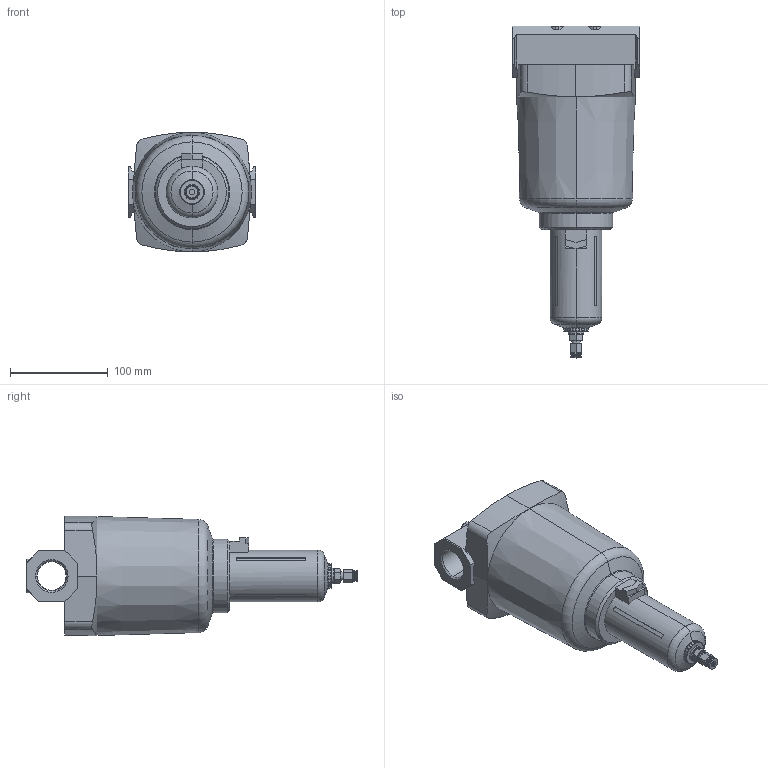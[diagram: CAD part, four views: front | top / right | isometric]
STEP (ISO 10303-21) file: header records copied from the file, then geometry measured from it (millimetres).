
FILE_DESCRIPTION (( 'STEP AP203' ), '1' );
FILE_NAME ('FSO550-10D.STEP', '2021-09-22T11:29:11', ( '' ), ( '' ), 'SwSTEP 2.0', 'SolidWorks 2019', '' );
FILE_SCHEMA (( 'CONFIG_CONTROL_DESIGN' ));
Length unit declared in the file: millimetre
Products named in the file (1): FSO550-10D
Bounding box: 130 x 339.1 x 121.95 mm (x, y, z)
Volume: 2131359.4 mm3; surface area: 130904.3 mm2
Topology: 1 solids, 1 shells, 365 faces, 836 edges, 500 vertices
Faces by surface type: cylinder 138, plane 114, cone 105, torus 8
Entity records: 12868 total; most frequent: CARTESIAN_POINT 4651, DIRECTION 1726, ORIENTED_EDGE 1672, EDGE_CURVE 836, AXIS2_PLACEMENT_3D 672, VERTEX_POINT 500, EDGE_LOOP 394, VECTOR 382
